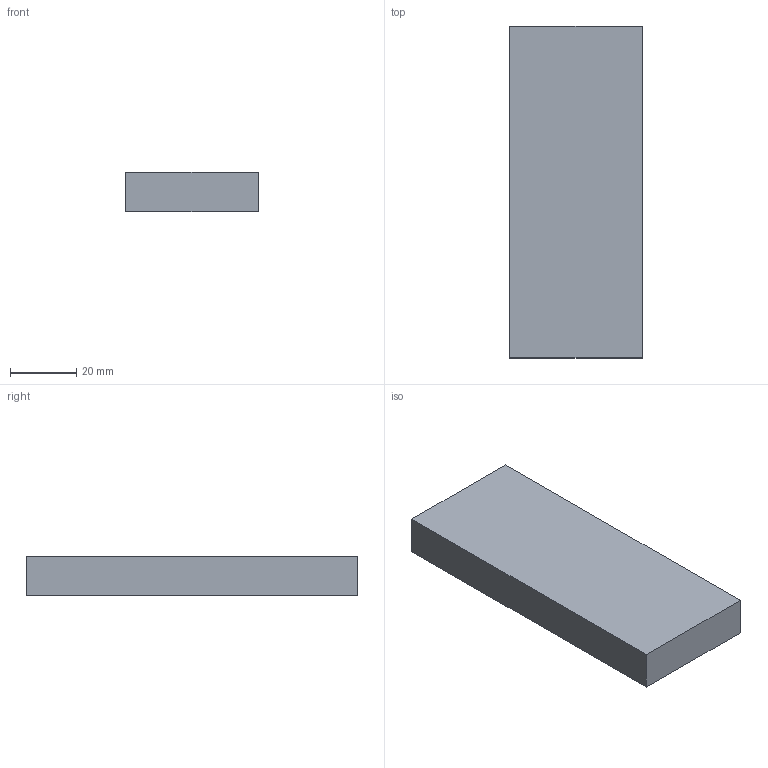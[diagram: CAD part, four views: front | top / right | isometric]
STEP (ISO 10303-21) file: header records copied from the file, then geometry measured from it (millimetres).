
FILE_DESCRIPTION(('Open CASCADE Model'),'2;1');
FILE_NAME('Open CASCADE Shape Model','2026-10-04T01:02:25',('Author'),( 'Open CASCADE'),'Open CASCADE STEP processor 8.0','Open CASCADE 8.0' ,'Unknown');
FILE_SCHEMA(('AUTOMOTIVE_DESIGN { 1 0 10303 214 1 1 1 1 }'));
Length unit declared in the file: millimetre
Products named in the file (1): Open CASCADE STEP translator 8.0 40
Bounding box: 40 x 100 x 12 mm (x, y, z)
Volume: 48000 mm3; surface area: 11360 mm2
Topology: 1 solids, 1 shells, 6 faces, 12 edges, 8 vertices
Faces by surface type: plane 6
Entity records: 322 total; most frequent: CARTESIAN_POINT 51, DIRECTION 50, LINE 36, VECTOR 36, ORIENTED_EDGE 24, PCURVE 24, DEFINITIONAL_REPRESENTATION 24, EDGE_CURVE 12
